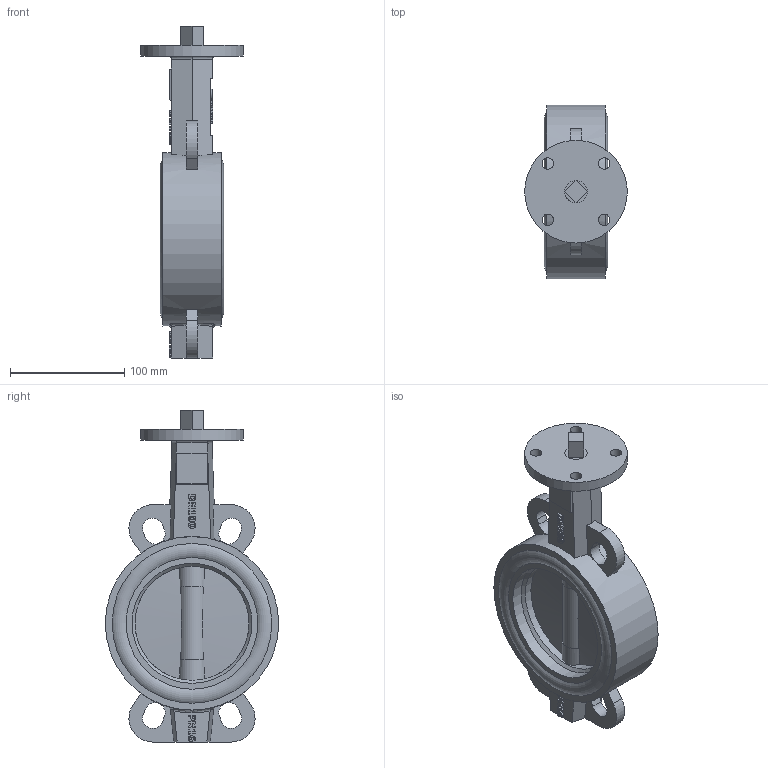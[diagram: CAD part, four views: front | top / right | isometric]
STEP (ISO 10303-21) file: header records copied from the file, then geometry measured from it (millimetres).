
FILE_DESCRIPTION(('STEP AP242'), '1');
FILE_NAME('Ïîâîðîòíûé çàòâîð ïîä ýëåêòðîïðèâîä', '', ('UNSPECIFIED'), ('UNSPECIFIED'), 'C3D Converter', 'C3D Toolkit', '');
FILE_SCHEMA(('AP242_MANAGED_MODEL_BASED_3D_ENGINEERING_MIM_LF { 1 0 10303 442 1 1 4 }'));
Length unit declared in the file: millimetre
Products named in the file (6): П
Assembly tree (6 placements, depth 2):
  (unnamed)
    (unnamed)
    П  x2
    (unnamed)
    (unnamed)
    (unnamed)
Bounding box: 90 x 152 x 291 mm (x, y, z)
Volume: 873967 mm3; surface area: 218925.9 mm2
Topology: 6 solids, 6 shells, 405 faces, 1074 edges, 706 vertices
Faces by surface type: plane 193, extrusion 139, cylinder 57, bspline 4, torus 4, cone 4, sphere 4
Full cylindrical faces by diameter (mm): 9.137 x1, 10 x4, 14 x6, 19.799 x5, 24.51 x4, 90 x1, 100 x1, 105.16 x2, 115.48 x2, 127.72 x4, 139.96 x4, 152 x1
Entity records: 17205 total; most frequent: CARTESIAN_POINT 5642, ORIENTED_EDGE 2048, DIRECTION 1492, EDGE_CURVE 1024, VERTEX_POINT 701, VECTOR 680, LINE 541, EDGE_LOOP 499
